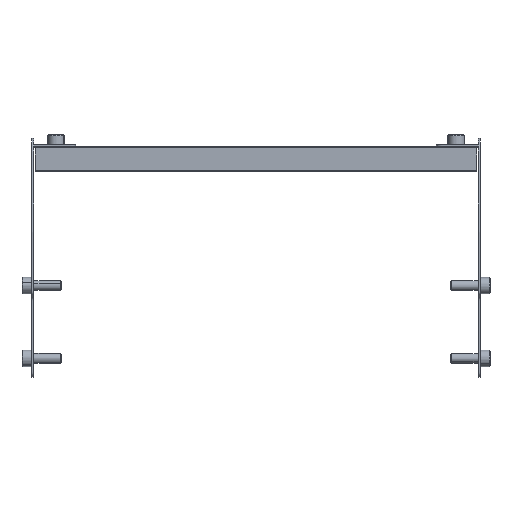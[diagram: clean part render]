
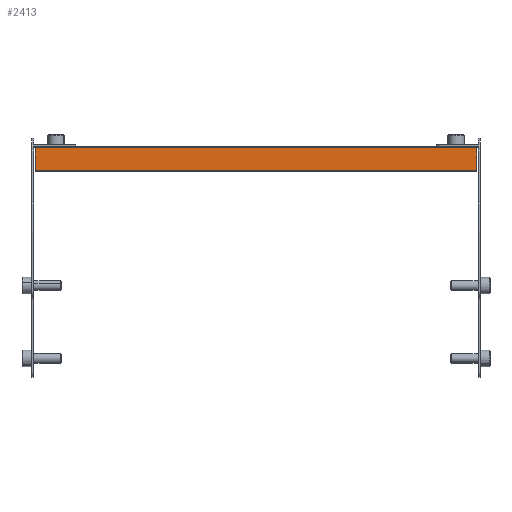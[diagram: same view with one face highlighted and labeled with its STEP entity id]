
A CAD part, front view. The second image highlights one B-rep face of the part: STEP entity #2413.
In plain terms, the highlighted planar face has unit normal (0, -1, 0) as drawn and (1, 0, 0) by its records, which use the part's own axes.
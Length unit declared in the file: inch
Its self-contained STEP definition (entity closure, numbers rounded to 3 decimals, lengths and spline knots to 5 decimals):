
#792=DIRECTION('',(0.,-1.,0.));
#793=VECTOR('',#792,0.53055);
#794=CARTESIAN_POINT('',(0.78127,0.26528,-5.30675));
#795=LINE('',#794,#793);
#1426=DIRECTION('',(0.,0.,-1.));
#1427=VECTOR('',#1426,10.6135);
#1428=CARTESIAN_POINT('',(0.78127,0.26528,5.30675));
#1429=LINE('',#1428,#1427);
#1430=DIRECTION('',(0.,-1.,0.));
#1431=VECTOR('',#1430,0.53055);
#1432=CARTESIAN_POINT('',(0.78127,0.26528,5.30675));
#1433=LINE('',#1432,#1431);
#1434=DIRECTION('',(0.,0.,1.));
#1435=VECTOR('',#1434,10.6135);
#1436=CARTESIAN_POINT('',(0.78127,-0.26528,-5.30675));
#1437=LINE('',#1436,#1435);
#1798=CARTESIAN_POINT('',(0.78127,0.26528,5.30675));
#1799=CARTESIAN_POINT('',(0.78127,-0.26528,5.30675));
#1800=VERTEX_POINT('',#1798);
#1801=VERTEX_POINT('',#1799);
#1867=CARTESIAN_POINT('',(0.78127,0.26528,-5.30675));
#1869=VERTEX_POINT('',#1867);
#1874=CARTESIAN_POINT('',(0.78127,-0.26528,-5.30675));
#1875=VERTEX_POINT('',#1874);
#2401=CARTESIAN_POINT('',(0.78127,0.29528,5.30675));
#2402=DIRECTION('',(-1.,0.,0.));
#2403=DIRECTION('',(0.,0.,1.));
#2404=AXIS2_PLACEMENT_3D('',#2401,#2402,#2403);
#2405=PLANE('',#2404);
#2406=ORIENTED_EDGE('',*,*,#2201,.F.);
#2407=ORIENTED_EDGE('',*,*,#2396,.T.);
#2408=ORIENTED_EDGE('',*,*,#2050,.T.);
#2410=ORIENTED_EDGE('',*,*,#2409,.T.);
#2411=EDGE_LOOP('',(#2406,#2407,#2408,#2410));
#2412=FACE_OUTER_BOUND('',#2411,.F.);
#2050=EDGE_CURVE('',#1869,#1875,#795,.T.);
#2201=EDGE_CURVE('',#1800,#1801,#1433,.T.);
#2396=EDGE_CURVE('',#1800,#1869,#1429,.T.);
#2409=EDGE_CURVE('',#1875,#1801,#1437,.T.);
#2413=ADVANCED_FACE('',(#2412),#2405,.F.);
